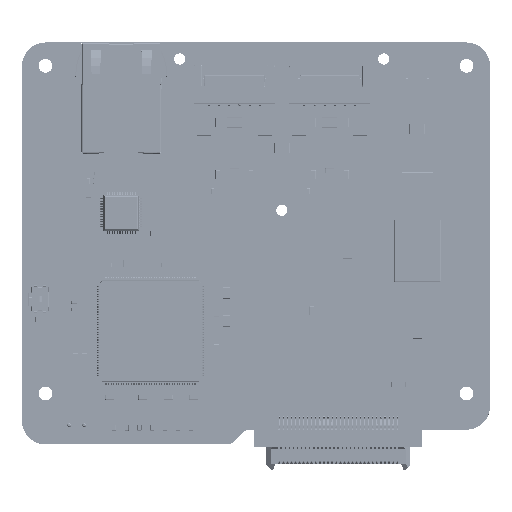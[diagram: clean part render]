
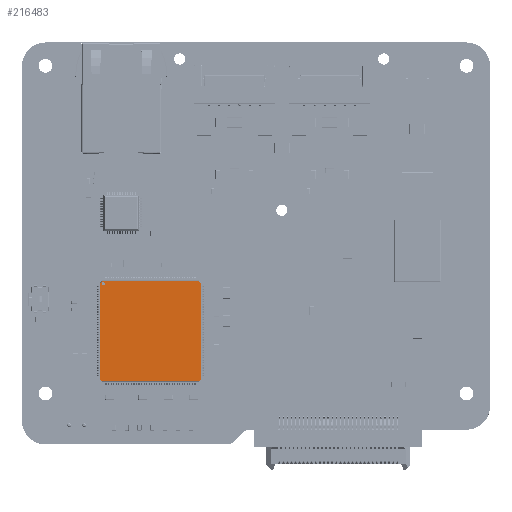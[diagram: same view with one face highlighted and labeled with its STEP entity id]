
A CAD part, top view. The second image highlights one B-rep face of the part: STEP entity #216483.
In plain terms, the highlighted planar face has unit normal (0, 0, 1).
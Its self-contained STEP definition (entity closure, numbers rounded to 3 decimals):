
#173839 = EDGE_CURVE('',#173840,#173840,#173842,.T.);
#173840 = VERTEX_POINT('',#173841);
#173841 = CARTESIAN_POINT('',(-9.,9.3,1.6));
#173842 = CIRCLE('',#173843,0.3);
#173843 = AXIS2_PLACEMENT_3D('',#173844,#173845,#173846);
#173844 = CARTESIAN_POINT('',(-9.3,9.3,1.6));
#173845 = DIRECTION('',(0.,-0.,-1.));
#173846 = DIRECTION('',(1.,0.,-0.));
#216483 = ADVANCED_FACE('',(#216484,#216550),#216553,.T.);
#216484 = FACE_BOUND('',#216485,.T.);
#216485 = EDGE_LOOP('',(#216486,#216496,#216504,#216512,#216520,#216528,
    #216536,#216544));
#216486 = ORIENTED_EDGE('',*,*,#216487,.F.);
#216487 = EDGE_CURVE('',#216488,#216490,#216492,.T.);
#216488 = VERTEX_POINT('',#216489);
#216489 = CARTESIAN_POINT('',(9.9,9.459,1.6));
#216490 = VERTEX_POINT('',#216491);
#216491 = CARTESIAN_POINT('',(9.9,-9.459,1.6));
#216492 = LINE('',#216493,#216494);
#216493 = CARTESIAN_POINT('',(9.9,0.,1.6));
#216494 = VECTOR('',#216495,1.);
#216495 = DIRECTION('',(0.,-1.,-0.));
#216496 = ORIENTED_EDGE('',*,*,#216497,.F.);
#216497 = EDGE_CURVE('',#216498,#216488,#216500,.T.);
#216498 = VERTEX_POINT('',#216499);
#216499 = CARTESIAN_POINT('',(9.459,9.9,1.6));
#216500 = LINE('',#216501,#216502);
#216501 = CARTESIAN_POINT('',(9.679,9.679,1.6));
#216502 = VECTOR('',#216503,1.);
#216503 = DIRECTION('',(0.707,-0.707,-0.));
#216504 = ORIENTED_EDGE('',*,*,#216505,.F.);
#216505 = EDGE_CURVE('',#216506,#216498,#216508,.T.);
#216506 = VERTEX_POINT('',#216507);
#216507 = CARTESIAN_POINT('',(-9.459,9.9,1.6));
#216508 = LINE('',#216509,#216510);
#216509 = CARTESIAN_POINT('',(0.,9.9,1.6));
#216510 = VECTOR('',#216511,1.);
#216511 = DIRECTION('',(1.,0.,0.));
#216512 = ORIENTED_EDGE('',*,*,#216513,.F.);
#216513 = EDGE_CURVE('',#216514,#216506,#216516,.T.);
#216514 = VERTEX_POINT('',#216515);
#216515 = CARTESIAN_POINT('',(-9.9,9.459,1.6));
#216516 = LINE('',#216517,#216518);
#216517 = CARTESIAN_POINT('',(-9.679,9.679,1.6));
#216518 = VECTOR('',#216519,1.);
#216519 = DIRECTION('',(0.707,0.707,-0.));
#216520 = ORIENTED_EDGE('',*,*,#216521,.F.);
#216521 = EDGE_CURVE('',#216522,#216514,#216524,.T.);
#216522 = VERTEX_POINT('',#216523);
#216523 = CARTESIAN_POINT('',(-9.9,-9.459,1.6));
#216524 = LINE('',#216525,#216526);
#216525 = CARTESIAN_POINT('',(-9.9,0.,1.6));
#216526 = VECTOR('',#216527,1.);
#216527 = DIRECTION('',(0.,1.,0.));
#216528 = ORIENTED_EDGE('',*,*,#216529,.F.);
#216529 = EDGE_CURVE('',#216530,#216522,#216532,.T.);
#216530 = VERTEX_POINT('',#216531);
#216531 = CARTESIAN_POINT('',(-9.459,-9.9,1.6));
#216532 = LINE('',#216533,#216534);
#216533 = CARTESIAN_POINT('',(-9.679,-9.679,1.6));
#216534 = VECTOR('',#216535,1.);
#216535 = DIRECTION('',(-0.707,0.707,-0.));
#216536 = ORIENTED_EDGE('',*,*,#216537,.F.);
#216537 = EDGE_CURVE('',#216538,#216530,#216540,.T.);
#216538 = VERTEX_POINT('',#216539);
#216539 = CARTESIAN_POINT('',(9.459,-9.9,1.6));
#216540 = LINE('',#216541,#216542);
#216541 = CARTESIAN_POINT('',(0.,-9.9,1.6));
#216542 = VECTOR('',#216543,1.);
#216543 = DIRECTION('',(-1.,-0.,-0.));
#216544 = ORIENTED_EDGE('',*,*,#216545,.F.);
#216545 = EDGE_CURVE('',#216490,#216538,#216546,.T.);
#216546 = LINE('',#216547,#216548);
#216547 = CARTESIAN_POINT('',(9.679,-9.679,1.6));
#216548 = VECTOR('',#216549,1.);
#216549 = DIRECTION('',(-0.707,-0.707,-0.));
#216550 = FACE_BOUND('',#216551,.T.);
#216551 = EDGE_LOOP('',(#216552));
#216552 = ORIENTED_EDGE('',*,*,#173839,.T.);
#216553 = PLANE('',#216554);
#216554 = AXIS2_PLACEMENT_3D('',#216555,#216556,#216557);
#216555 = CARTESIAN_POINT('',(0.,0.,1.6));
#216556 = DIRECTION('',(0.,0.,1.));
#216557 = DIRECTION('',(1.,0.,-0.));
